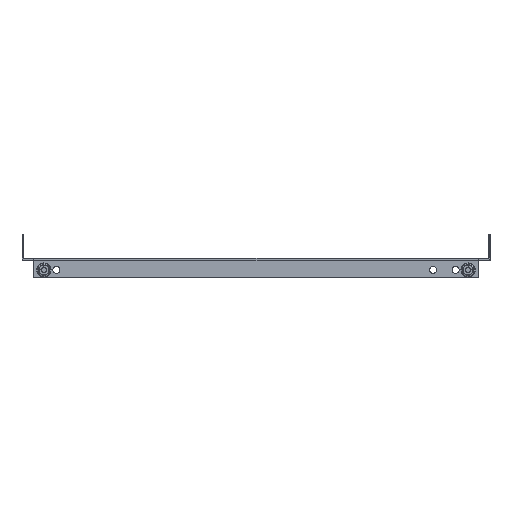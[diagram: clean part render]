
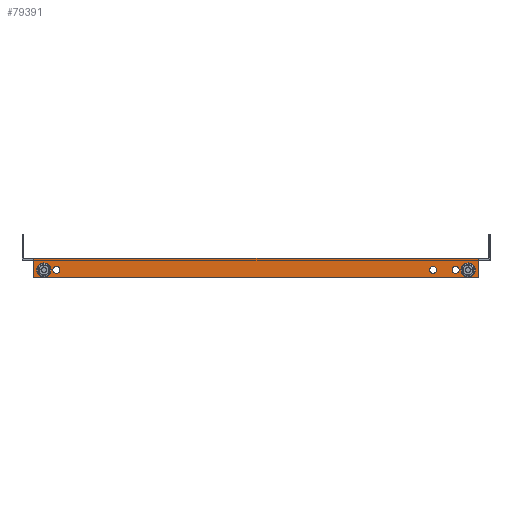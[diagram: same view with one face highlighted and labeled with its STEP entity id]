
A CAD part, left-side view. The second image highlights one B-rep face of the part: STEP entity #79391.
In plain terms, the highlighted planar face has unit normal (-1, 0, 0).
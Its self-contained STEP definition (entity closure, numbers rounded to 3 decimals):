
#62096 = VERTEX_POINT('',#62097);
#62097 = CARTESIAN_POINT('',(-350.,222.5,2.));
#62103 = EDGE_CURVE('',#62104,#62096,#62106,.T.);
#62104 = VERTEX_POINT('',#62105);
#62105 = CARTESIAN_POINT('',(-350.,-222.5,2.));
#62106 = LINE('',#62107,#62108);
#62107 = CARTESIAN_POINT('',(-350.,-232.5,2.));
#62108 = VECTOR('',#62109,1.);
#62109 = DIRECTION('',(0.,1.,-0.));
#79270 = VERTEX_POINT('',#79271);
#79271 = CARTESIAN_POINT('',(-350.,-222.5,-0.6));
#79286 = EDGE_CURVE('',#79270,#62104,#79287,.T.);
#79287 = LINE('',#79288,#79289);
#79288 = CARTESIAN_POINT('',(-350.,-222.5,-0.6));
#79289 = VECTOR('',#79290,1.);
#79290 = DIRECTION('',(0.,0.,1.));
#79310 = VERTEX_POINT('',#79311);
#79311 = CARTESIAN_POINT('',(-350.,222.5,-0.6));
#79317 = EDGE_CURVE('',#79310,#62096,#79318,.T.);
#79318 = LINE('',#79319,#79320);
#79319 = CARTESIAN_POINT('',(-350.,222.5,0.));
#79320 = VECTOR('',#79321,1.);
#79321 = DIRECTION('',(0.,0.,1.));
#79333 = EDGE_CURVE('',#79334,#79310,#79336,.T.);
#79334 = VERTEX_POINT('',#79335);
#79335 = CARTESIAN_POINT('',(-350.,222.5,-17.));
#79336 = LINE('',#79337,#79338);
#79337 = CARTESIAN_POINT('',(-350.,222.5,0.));
#79338 = VECTOR('',#79339,1.);
#79339 = DIRECTION('',(0.,-0.,1.));
#79373 = EDGE_CURVE('',#79270,#79374,#79376,.T.);
#79374 = VERTEX_POINT('',#79375);
#79375 = CARTESIAN_POINT('',(-350.,-222.5,-17.));
#79376 = LINE('',#79377,#79378);
#79377 = CARTESIAN_POINT('',(-350.,-222.5,-17.));
#79378 = VECTOR('',#79379,1.);
#79379 = DIRECTION('',(0.,-0.,-1.));
#79391 = ADVANCED_FACE('',(#79392,#79403,#79423,#79443,#79454,#79465),
  #79478,.T.);
#79392 = FACE_BOUND('',#79393,.T.);
#79393 = EDGE_LOOP('',(#79394));
#79394 = ORIENTED_EDGE('',*,*,#79395,.T.);
#79395 = EDGE_CURVE('',#79396,#79396,#79398,.T.);
#79396 = VERTEX_POINT('',#79397);
#79397 = CARTESIAN_POINT('',(-350.,-177.5,-13.));
#79398 = CIRCLE('',#79399,3.5);
#79399 = AXIS2_PLACEMENT_3D('',#79400,#79401,#79402);
#79400 = CARTESIAN_POINT('',(-350.,-177.5,-9.5));
#79401 = DIRECTION('',(1.,0.,0.));
#79402 = DIRECTION('',(0.,-0.,-1.));
#79403 = FACE_BOUND('',#79404,.T.);
#79404 = EDGE_LOOP('',(#79405,#79416));
#79405 = ORIENTED_EDGE('',*,*,#79406,.F.);
#79406 = EDGE_CURVE('',#79407,#79409,#79411,.T.);
#79407 = VERTEX_POINT('',#79408);
#79408 = CARTESIAN_POINT('',(-350.,-212.5,-13.));
#79409 = VERTEX_POINT('',#79410);
#79410 = CARTESIAN_POINT('',(-350.,-212.5,-6.));
#79411 = CIRCLE('',#79412,3.5);
#79412 = AXIS2_PLACEMENT_3D('',#79413,#79414,#79415);
#79413 = CARTESIAN_POINT('',(-350.,-212.5,-9.5));
#79414 = DIRECTION('',(-1.,0.,0.));
#79415 = DIRECTION('',(0.,0.,-1.));
#79416 = ORIENTED_EDGE('',*,*,#79417,.F.);
#79417 = EDGE_CURVE('',#79409,#79407,#79418,.T.);
#79418 = CIRCLE('',#79419,3.5);
#79419 = AXIS2_PLACEMENT_3D('',#79420,#79421,#79422);
#79420 = CARTESIAN_POINT('',(-350.,-212.5,-9.5));
#79421 = DIRECTION('',(-1.,0.,0.));
#79422 = DIRECTION('',(0.,0.,-1.));
#79423 = FACE_BOUND('',#79424,.T.);
#79424 = EDGE_LOOP('',(#79425,#79436));
#79425 = ORIENTED_EDGE('',*,*,#79426,.F.);
#79426 = EDGE_CURVE('',#79427,#79429,#79431,.T.);
#79427 = VERTEX_POINT('',#79428);
#79428 = CARTESIAN_POINT('',(-350.,-200.,-13.));
#79429 = VERTEX_POINT('',#79430);
#79430 = CARTESIAN_POINT('',(-350.,-200.,-6.));
#79431 = CIRCLE('',#79432,3.5);
#79432 = AXIS2_PLACEMENT_3D('',#79433,#79434,#79435);
#79433 = CARTESIAN_POINT('',(-350.,-200.,-9.5));
#79434 = DIRECTION('',(-1.,0.,0.));
#79435 = DIRECTION('',(0.,0.,-1.));
#79436 = ORIENTED_EDGE('',*,*,#79437,.F.);
#79437 = EDGE_CURVE('',#79429,#79427,#79438,.T.);
#79438 = CIRCLE('',#79439,3.5);
#79439 = AXIS2_PLACEMENT_3D('',#79440,#79441,#79442);
#79440 = CARTESIAN_POINT('',(-350.,-200.,-9.5));
#79441 = DIRECTION('',(-1.,0.,0.));
#79442 = DIRECTION('',(0.,0.,-1.));
#79443 = FACE_BOUND('',#79444,.T.);
#79444 = EDGE_LOOP('',(#79445));
#79445 = ORIENTED_EDGE('',*,*,#79446,.F.);
#79446 = EDGE_CURVE('',#79447,#79447,#79449,.T.);
#79447 = VERTEX_POINT('',#79448);
#79448 = CARTESIAN_POINT('',(-350.,200.,-6.));
#79449 = CIRCLE('',#79450,3.5);
#79450 = AXIS2_PLACEMENT_3D('',#79451,#79452,#79453);
#79451 = CARTESIAN_POINT('',(-350.,200.,-9.5));
#79452 = DIRECTION('',(-1.,0.,0.));
#79453 = DIRECTION('',(0.,0.,1.));
#79454 = FACE_BOUND('',#79455,.T.);
#79455 = EDGE_LOOP('',(#79456));
#79456 = ORIENTED_EDGE('',*,*,#79457,.F.);
#79457 = EDGE_CURVE('',#79458,#79458,#79460,.T.);
#79458 = VERTEX_POINT('',#79459);
#79459 = CARTESIAN_POINT('',(-350.,212.5,-6.));
#79460 = CIRCLE('',#79461,3.5);
#79461 = AXIS2_PLACEMENT_3D('',#79462,#79463,#79464);
#79462 = CARTESIAN_POINT('',(-350.,212.5,-9.5));
#79463 = DIRECTION('',(-1.,0.,0.));
#79464 = DIRECTION('',(0.,0.,1.));
#79465 = FACE_BOUND('',#79466,.T.);
#79466 = EDGE_LOOP('',(#79467,#79468,#79469,#79470,#79471,#79472));
#79467 = ORIENTED_EDGE('',*,*,#79373,.F.);
#79468 = ORIENTED_EDGE('',*,*,#79286,.T.);
#79469 = ORIENTED_EDGE('',*,*,#62103,.T.);
#79470 = ORIENTED_EDGE('',*,*,#79317,.F.);
#79471 = ORIENTED_EDGE('',*,*,#79333,.F.);
#79472 = ORIENTED_EDGE('',*,*,#79473,.F.);
#79473 = EDGE_CURVE('',#79374,#79334,#79474,.T.);
#79474 = LINE('',#79475,#79476);
#79475 = CARTESIAN_POINT('',(-350.,222.5,-17.));
#79476 = VECTOR('',#79477,1.);
#79477 = DIRECTION('',(0.,1.,-0.));
#79478 = PLANE('',#79479);
#79479 = AXIS2_PLACEMENT_3D('',#79480,#79481,#79482);
#79480 = CARTESIAN_POINT('',(-350.,222.5,0.));
#79481 = DIRECTION('',(-1.,0.,0.));
#79482 = DIRECTION('',(0.,0.,1.));
